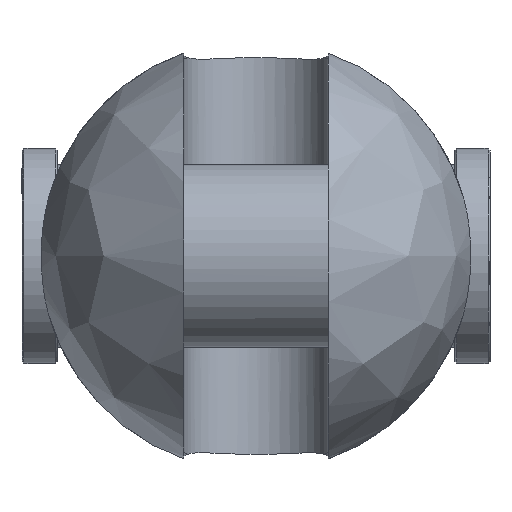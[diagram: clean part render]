
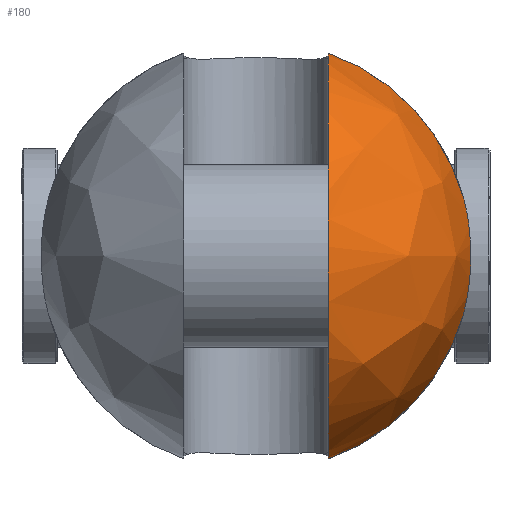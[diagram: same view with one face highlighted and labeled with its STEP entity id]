
A CAD part, left-side view. The second image highlights one B-rep face of the part: STEP entity #180.
In plain terms, the highlighted free-form (B-spline) face has degree [2, 2] with [9, 5] control points.
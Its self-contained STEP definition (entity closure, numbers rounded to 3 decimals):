
#180=ADVANCED_FACE('',(#322),#2445,.T.);
#322=FACE_OUTER_BOUND('',#484,.T.);
#484=EDGE_LOOP('',(#1207,#1208,#1209,#1210));
#1207=ORIENTED_EDGE('',*,*,#1593,.T.);
#1208=ORIENTED_EDGE('',*,*,#1621,.F.);
#1209=ORIENTED_EDGE('',*,*,#1633,.T.);
#1210=ORIENTED_EDGE('',*,*,#1613,.F.);
#1593=EDGE_CURVE('',#2276,#2275,#2006,.T.);
#1613=EDGE_CURVE('',#2276,#2288,#2016,.T.);
#1621=EDGE_CURVE('',#2295,#2275,#2017,.T.);
#1633=EDGE_CURVE('',#2295,#2288,#1808,.T.);
#1808=B_SPLINE_CURVE_WITH_KNOTS('',3,(#6263,#6264,#6265,#6266,#6267,#6268,
#6269,#6270,#6271,#6272,#6273,#6274,#6275,#6276),.UNSPECIFIED.,.F.,.F.,
(4,2,2,2,2,2,4),(0.,3.599,9.525,15.451,21.378,
27.304,30.903),.UNSPECIFIED.);
#2006=(
BOUNDED_CURVE()
B_SPLINE_CURVE(2,(#6007,#6008,#6009,#6010,#6011),.UNSPECIFIED.,.F.,.F.)
B_SPLINE_CURVE_WITH_KNOTS((3,2,3),(-162.72,-81.36,
0.),.UNSPECIFIED.)
CURVE()
GEOMETRIC_REPRESENTATION_ITEM()
RATIONAL_B_SPLINE_CURVE((1.,0.707,1.,0.707,1.))
REPRESENTATION_ITEM('')
);
#2016=(
BOUNDED_CURVE()
B_SPLINE_CURVE(2,(#6133,#6134,#6135),.UNSPECIFIED.,.F.,.F.)
B_SPLINE_CURVE_WITH_KNOTS((3,3),(0.,52.79),.UNSPECIFIED.)
CURVE()
GEOMETRIC_REPRESENTATION_ITEM()
RATIONAL_B_SPLINE_CURVE((1.,0.887,1.))
REPRESENTATION_ITEM('')
);
#2017=(
BOUNDED_CURVE()
B_SPLINE_CURVE(2,(#6190,#6191,#6192),.UNSPECIFIED.,.F.,.F.)
B_SPLINE_CURVE_WITH_KNOTS((3,3),(0.,52.79),.UNSPECIFIED.)
CURVE()
GEOMETRIC_REPRESENTATION_ITEM()
RATIONAL_B_SPLINE_CURVE((1.,0.887,1.))
REPRESENTATION_ITEM('')
);
#2275=VERTEX_POINT('',#5891);
#2276=VERTEX_POINT('',#5892);
#2288=VERTEX_POINT('',#5904);
#2295=VERTEX_POINT('',#5911);
#2445=(
BOUNDED_SURFACE()
B_SPLINE_SURFACE(2,2,((#5605,#5606,#5607,#5608,#5609),(#5610,#5611,#5612,
#5613,#5614),(#5615,#5616,#5617,#5618,#5619),(#5620,#5621,#5622,#5623,#5624),
(#5625,#5626,#5627,#5628,#5629),(#5630,#5631,#5632,#5633,#5634),(#5635,
#5636,#5637,#5638,#5639),(#5640,#5641,#5642,#5643,#5644),(#5645,#5646,#5647,
#5648,#5649)),.UNSPECIFIED.,.T.,.F.,.F.)
B_SPLINE_SURFACE_WITH_KNOTS((3,2,2,2,3),(3,2,3),(0.,86.394,172.788,
259.181,345.575),(0.,86.394,172.788),
 .UNSPECIFIED.)
GEOMETRIC_REPRESENTATION_ITEM()
RATIONAL_B_SPLINE_SURFACE(((1.,0.707,1.,0.707,1.),
(0.707,0.5,0.707,0.5,0.707),(1.,0.707,
1.,0.707,1.),(0.707,0.5,0.707,0.5,0.707),
(1.,0.707,1.,0.707,1.),(0.707,0.5,0.707,
0.5,0.707),(1.,0.707,1.,0.707,1.),(0.707,
0.5,0.707,0.5,0.707),(1.,0.707,1.,0.707,
1.)))
REPRESENTATION_ITEM('')
SURFACE()
);
#5605=CARTESIAN_POINT('',(-79.5,0.,0.));
#5606=CARTESIAN_POINT('',(-79.5,55.,0.));
#5607=CARTESIAN_POINT('',(-24.5,55.,0.));
#5608=CARTESIAN_POINT('',(30.5,55.,0.));
#5609=CARTESIAN_POINT('',(30.5,0.,0.));
#5610=CARTESIAN_POINT('',(-79.5,0.,0.));
#5611=CARTESIAN_POINT('',(-79.5,55.,55.));
#5612=CARTESIAN_POINT('',(-24.5,55.,55.));
#5613=CARTESIAN_POINT('',(30.5,55.,55.));
#5614=CARTESIAN_POINT('',(30.5,0.,0.));
#5615=CARTESIAN_POINT('',(-79.5,0.,0.));
#5616=CARTESIAN_POINT('',(-79.5,0.,55.));
#5617=CARTESIAN_POINT('',(-24.5,0.,55.));
#5618=CARTESIAN_POINT('',(30.5,0.,55.));
#5619=CARTESIAN_POINT('',(30.5,0.,0.));
#5620=CARTESIAN_POINT('',(-79.5,0.,0.));
#5621=CARTESIAN_POINT('',(-79.5,-55.,55.));
#5622=CARTESIAN_POINT('',(-24.5,-55.,55.));
#5623=CARTESIAN_POINT('',(30.5,-55.,55.));
#5624=CARTESIAN_POINT('',(30.5,0.,0.));
#5625=CARTESIAN_POINT('',(-79.5,0.,0.));
#5626=CARTESIAN_POINT('',(-79.5,-55.,0.));
#5627=CARTESIAN_POINT('',(-24.5,-55.,0.));
#5628=CARTESIAN_POINT('',(30.5,-55.,0.));
#5629=CARTESIAN_POINT('',(30.5,0.,0.));
#5630=CARTESIAN_POINT('',(-79.5,0.,0.));
#5631=CARTESIAN_POINT('',(-79.5,-55.,-55.));
#5632=CARTESIAN_POINT('',(-24.5,-55.,-55.));
#5633=CARTESIAN_POINT('',(30.5,-55.,-55.));
#5634=CARTESIAN_POINT('',(30.5,0.,0.));
#5635=CARTESIAN_POINT('',(-79.5,0.,0.));
#5636=CARTESIAN_POINT('',(-79.5,0.,-55.));
#5637=CARTESIAN_POINT('',(-24.5,0.,-55.));
#5638=CARTESIAN_POINT('',(30.5,0.,-55.));
#5639=CARTESIAN_POINT('',(30.5,0.,0.));
#5640=CARTESIAN_POINT('',(-79.5,0.,0.));
#5641=CARTESIAN_POINT('',(-79.5,55.,-55.));
#5642=CARTESIAN_POINT('',(-24.5,55.,-55.));
#5643=CARTESIAN_POINT('',(30.5,55.,-55.));
#5644=CARTESIAN_POINT('',(30.5,0.,0.));
#5645=CARTESIAN_POINT('',(-79.5,0.,0.));
#5646=CARTESIAN_POINT('',(-79.5,55.,0.));
#5647=CARTESIAN_POINT('',(-24.5,55.,0.));
#5648=CARTESIAN_POINT('',(30.5,55.,0.));
#5649=CARTESIAN_POINT('',(30.5,0.,0.));
#5891=CARTESIAN_POINT('',(-24.5,-18.5,-51.795));
#5892=CARTESIAN_POINT('',(-24.5,-18.5,51.795));
#5904=CARTESIAN_POINT('',(-24.5,-53.038,14.56));
#5911=CARTESIAN_POINT('',(-24.5,-53.038,-14.56));
#6007=CARTESIAN_POINT('',(-24.5,-18.5,51.795));
#6008=CARTESIAN_POINT('',(-76.295,-18.5,51.795));
#6009=CARTESIAN_POINT('',(-76.295,-18.5,0.));
#6010=CARTESIAN_POINT('',(-76.295,-18.5,-51.795));
#6011=CARTESIAN_POINT('',(-24.5,-18.5,-51.795));
#6133=CARTESIAN_POINT('',(-24.5,-18.5,51.795));
#6134=CARTESIAN_POINT('',(-24.5,-45.459,42.166));
#6135=CARTESIAN_POINT('',(-24.5,-53.038,14.56));
#6190=CARTESIAN_POINT('',(-24.5,-53.038,-14.56));
#6191=CARTESIAN_POINT('',(-24.5,-45.459,-42.166));
#6192=CARTESIAN_POINT('',(-24.5,-18.5,-51.795));
#6263=CARTESIAN_POINT('',(-24.5,-53.038,-14.56));
#6264=CARTESIAN_POINT('',(-25.102,-53.316,-13.547));
#6265=CARTESIAN_POINT('',(-25.647,-53.565,-12.486));
#6266=CARTESIAN_POINT('',(-26.91,-54.141,-9.59));
#6267=CARTESIAN_POINT('',(-27.513,-54.412,-7.692));
#6268=CARTESIAN_POINT('',(-28.308,-54.769,-3.845));
#6269=CARTESIAN_POINT('',(-28.5,-54.854,-1.896));
#6270=CARTESIAN_POINT('',(-28.5,-54.854,1.896));
#6271=CARTESIAN_POINT('',(-28.308,-54.769,3.845));
#6272=CARTESIAN_POINT('',(-27.513,-54.412,7.692));
#6273=CARTESIAN_POINT('',(-26.91,-54.141,9.59));
#6274=CARTESIAN_POINT('',(-25.647,-53.565,12.486));
#6275=CARTESIAN_POINT('',(-25.102,-53.316,13.547));
#6276=CARTESIAN_POINT('',(-24.5,-53.038,14.56));
